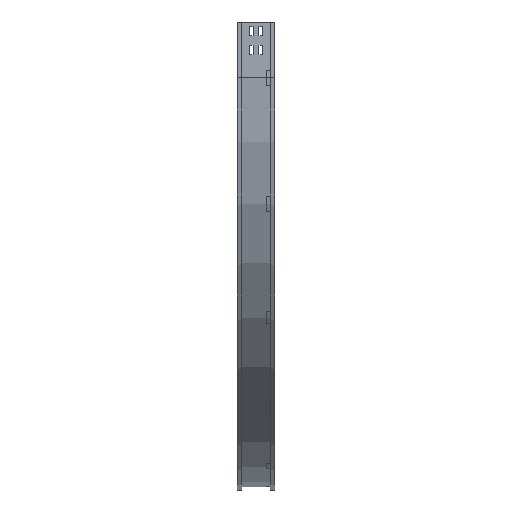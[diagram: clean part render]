
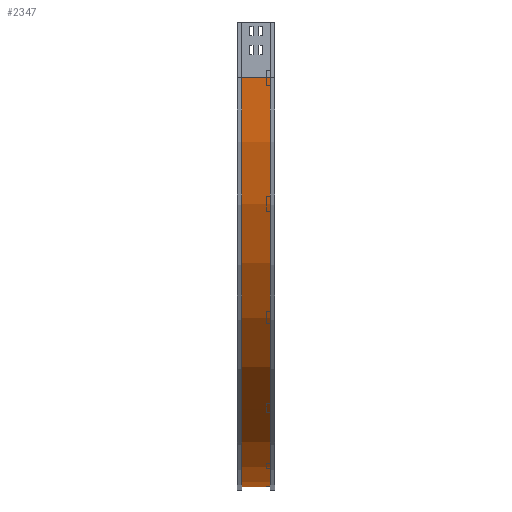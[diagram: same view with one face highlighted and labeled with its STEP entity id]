
A CAD part, left-side view. The second image highlights one B-rep face of the part: STEP entity #2347.
In plain terms, the highlighted cylindrical face has radius 1100 mm (diameter 2200 mm), a partial arc.
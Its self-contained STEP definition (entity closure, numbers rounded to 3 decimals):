
#497 = CARTESIAN_POINT ( 'NONE',  ( 9., 12., -150. ) ) ;
#1052 = VECTOR ( 'NONE', #1200, 1000. ) ;
#1090 = DIRECTION ( 'NONE',  ( 0., -1., 0. ) ) ;
#1200 = DIRECTION ( 'NONE',  ( 0., -1., 0. ) ) ;
#1342 = DIRECTION ( 'NONE',  ( -1., 0., 0. ) ) ;
#1398 = EDGE_CURVE ( 'NONE', #3441, #3284, #1880, .T. ) ;
#1553 = LINE ( 'NONE', #497, #1052 ) ;
#1579 = AXIS2_PLACEMENT_3D ( 'NONE', #1702, #1090, #1342 ) ;
#1605 = DIRECTION ( 'NONE',  ( -1., 0., 0. ) ) ;
#1702 = CARTESIAN_POINT ( 'NONE',  ( 1109., 88., -150. ) ) ;
#1759 = CYLINDRICAL_SURFACE ( 'NONE', #2033, 1100. ) ;
#1807 = DIRECTION ( 'NONE',  ( 0., -1., 0. ) ) ;
#1880 = CIRCLE ( 'NONE', #2608, 1100. ) ;
#1950 = CIRCLE ( 'NONE', #1579, 1100. ) ;
#2033 = AXIS2_PLACEMENT_3D ( 'NONE', #2127, #1807, #2496 ) ;
#2127 = CARTESIAN_POINT ( 'NONE',  ( 1109., 0., -150. ) ) ;
#2266 = ORIENTED_EDGE ( 'NONE', *, *, #3805, .T. ) ;
#2278 = CARTESIAN_POINT ( 'NONE',  ( 1109., 88., -1250. ) ) ;
#2347 = ADVANCED_FACE ( 'NONE', ( #4508 ), #1759, .T. ) ;
#2359 = DIRECTION ( 'NONE',  ( 0., -1., 0. ) ) ;
#2437 = ORIENTED_EDGE ( 'NONE', *, *, #3927, .T. ) ;
#2485 = ORIENTED_EDGE ( 'NONE', *, *, #3103, .F. ) ;
#2496 = DIRECTION ( 'NONE',  ( 0., 0., -1. ) ) ;
#2549 = CARTESIAN_POINT ( 'NONE',  ( 1109., 12., -1250. ) ) ;
#2552 = EDGE_LOOP ( 'NONE', ( #2633, #2485, #2266, #2437 ) ) ;
#2597 = CARTESIAN_POINT ( 'NONE',  ( 9., 12., -150. ) ) ;
#2608 = AXIS2_PLACEMENT_3D ( 'NONE', #3734, #2359, #1605 ) ;
#2633 = ORIENTED_EDGE ( 'NONE', *, *, #1398, .F. ) ;
#2870 = DIRECTION ( 'NONE',  ( 0., -1., 0. ) ) ;
#3069 = CARTESIAN_POINT ( 'NONE',  ( 1109., 12., -1250. ) ) ;
#3103 = EDGE_CURVE ( 'NONE', #4090, #3441, #1553, .T. ) ;
#3284 = VERTEX_POINT ( 'NONE', #3069 ) ;
#3441 = VERTEX_POINT ( 'NONE', #2597 ) ;
#3671 = CARTESIAN_POINT ( 'NONE',  ( 9., 88., -150. ) ) ;
#3734 = CARTESIAN_POINT ( 'NONE',  ( 1109., 12., -150. ) ) ;
#3805 = EDGE_CURVE ( 'NONE', #4090, #4083, #1950, .T. ) ;
#3927 = EDGE_CURVE ( 'NONE', #4083, #3284, #3988, .T. ) ;
#3988 = LINE ( 'NONE', #2549, #4431 ) ;
#4083 = VERTEX_POINT ( 'NONE', #2278 ) ;
#4090 = VERTEX_POINT ( 'NONE', #3671 ) ;
#4431 = VECTOR ( 'NONE', #2870, 1000. ) ;
#4508 = FACE_OUTER_BOUND ( 'NONE', #2552, .T. ) ;
